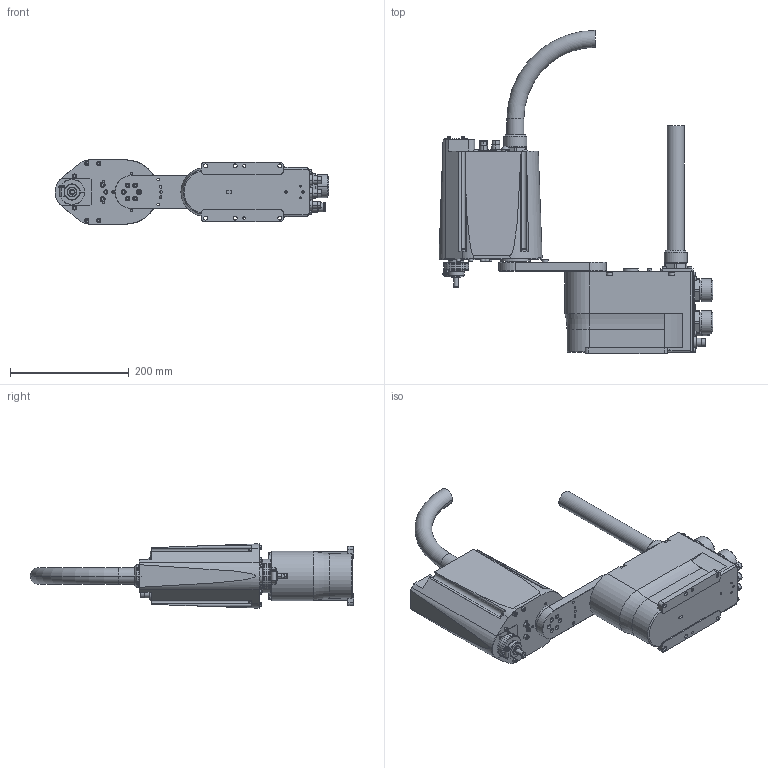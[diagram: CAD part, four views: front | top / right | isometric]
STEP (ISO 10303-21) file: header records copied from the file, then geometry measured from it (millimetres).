
FILE_DESCRIPTION( ( '' ), '1' );
FILE_NAME( '//expscmdclustefs.cadenas.external/client_exchange/iodir/jobs/output/wkb51504213_no0/STEP/G1_221C_2_03.stp', '2012-11-22T13:05:42', ( '' ), ( '' ), ' ', ' ', ' ' );
FILE_SCHEMA( ( 'CONFIG_CONTROL_DESIGN' ) );
Length unit declared in the file: millimetre
Products named in the file (6): 1; 2; 3; 4; 5; 6
Bounding box: 461.7 x 545 x 108 mm (x, y, z)
Volume: 5216044.5 mm3; surface area: 426754.5 mm2
Topology: 6 solids, 12 shells, 1597 faces, 3734 edges, 2419 vertices
Faces by surface type: plane 854, cylinder 532, cone 190, torus 16, sphere 5
Entity records: 46328 total; most frequent: DIRECTION 8248, CARTESIAN_POINT 8182, ORIENTED_EDGE 7464, EDGE_CURVE 3732, AXIS2_PLACEMENT_3D 2941, VERTEX_POINT 2419, LINE 2366, VECTOR 2366
